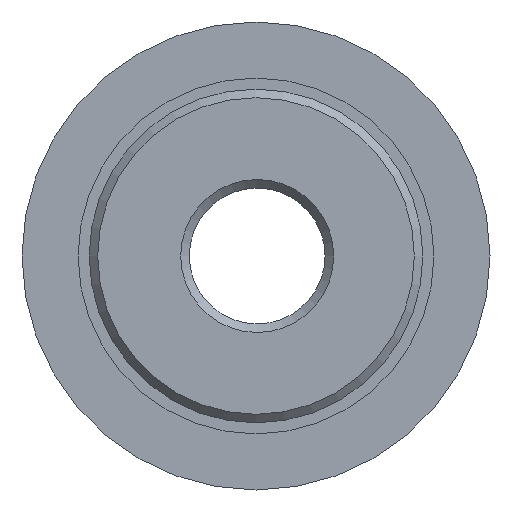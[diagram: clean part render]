
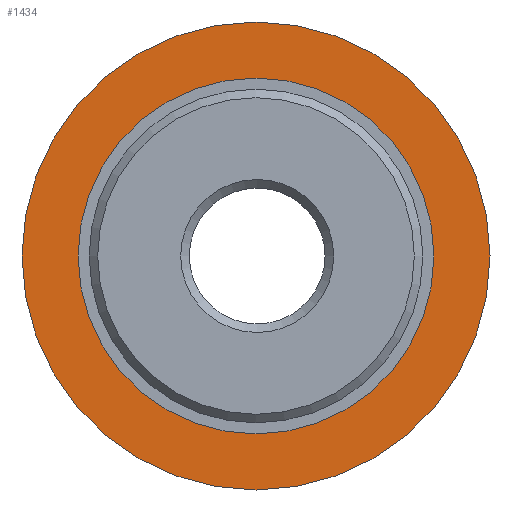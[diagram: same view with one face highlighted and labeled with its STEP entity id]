
A CAD part, left-side view. The second image highlights one B-rep face of the part: STEP entity #1434.
In plain terms, the highlighted planar face has unit normal (-1, 0, 0).
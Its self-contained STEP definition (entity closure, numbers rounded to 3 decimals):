
#14 = EDGE_LOOP ( 'NONE', ( #743 ) ) ;
#82 = AXIS2_PLACEMENT_3D ( 'NONE', #325, #324, #323 ) ;
#87 = AXIS2_PLACEMENT_3D ( 'NONE', #1471, #1470, #1469 ) ;
#156 = EDGE_LOOP ( 'NONE', ( #742 ) ) ;
#186 = CIRCLE ( 'NONE', #87, 20.8 ) ;
#269 = EDGE_CURVE ( 'NONE', #853, #853, #347, .T. ) ;
#275 = EDGE_CURVE ( 'NONE', #857, #857, #186, .T. ) ;
#306 = AXIS2_PLACEMENT_3D ( 'NONE', #1268, #1272, #1273 ) ;
#323 = DIRECTION ( 'NONE',  ( 0., 0., -1. ) ) ;
#324 = DIRECTION ( 'NONE',  ( 1., 0., 0. ) ) ;
#325 = CARTESIAN_POINT ( 'NONE',  ( -9.08, 0.138, 0. ) ) ;
#347 = CIRCLE ( 'NONE', #82, 27.35 ) ;
#742 = ORIENTED_EDGE ( 'NONE', *, *, #275, .T. ) ;
#743 = ORIENTED_EDGE ( 'NONE', *, *, #269, .F. ) ;
#756 = FACE_BOUND ( 'NONE', #156, .T. ) ;
#811 = FACE_OUTER_BOUND ( 'NONE', #14, .T. ) ;
#853 = VERTEX_POINT ( 'NONE', #1351 ) ;
#857 = VERTEX_POINT ( 'NONE', #1355 ) ;
#1268 = CARTESIAN_POINT ( 'NONE',  ( -9.08, 0.138, 0. ) ) ;
#1270 = PLANE ( 'NONE',  #306 ) ;
#1272 = DIRECTION ( 'NONE',  ( 1., 0., 0. ) ) ;
#1273 = DIRECTION ( 'NONE',  ( 0., 0., -1. ) ) ;
#1351 = CARTESIAN_POINT ( 'NONE',  ( -9.08, 0.138, -27.35 ) ) ;
#1355 = CARTESIAN_POINT ( 'NONE',  ( -9.08, 0.138, -20.8 ) ) ;
#1434 = ADVANCED_FACE ( 'NONE', ( #811, #756 ), #1270, .F. ) ;
#1469 = DIRECTION ( 'NONE',  ( 0., 0., -1. ) ) ;
#1470 = DIRECTION ( 'NONE',  ( 1., 0., 0. ) ) ;
#1471 = CARTESIAN_POINT ( 'NONE',  ( -9.08, 0.138, 0. ) ) ;
